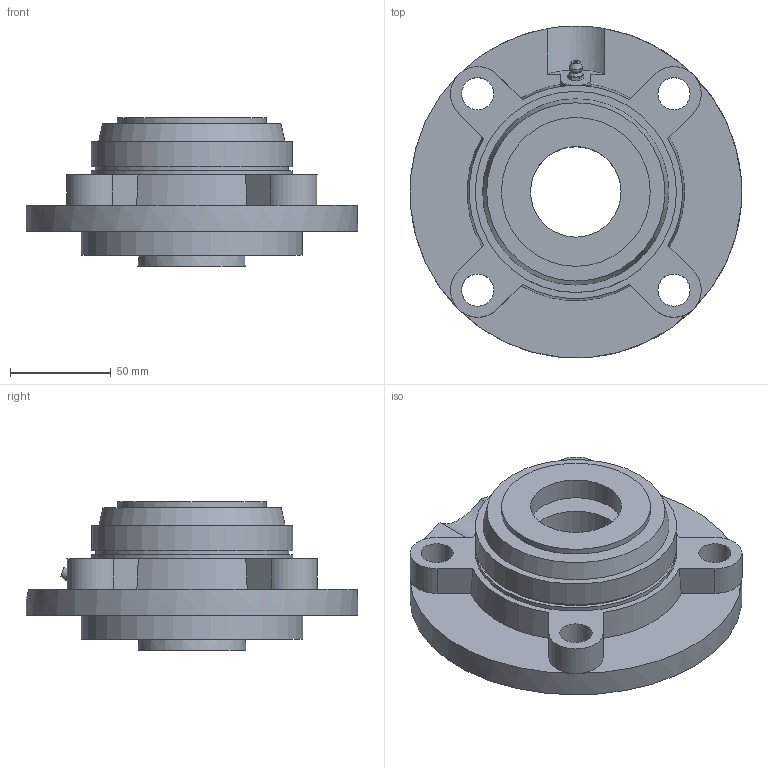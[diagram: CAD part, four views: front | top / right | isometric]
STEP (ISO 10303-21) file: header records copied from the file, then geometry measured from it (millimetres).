
FILE_DESCRIPTION((''),'2;1');
FILE_NAME('\\Ts-tgl068\j-cad-d-base\00.3DCADデータ作成フォルダ\02.フランジ形\UKFC200C(E)\UKFC210C+H.stp','2014-05-22T07:50:04',('btec_1106_2'),(''),'Autodesk Inventor 2012','Autodesk Inventor 2012','');
FILE_SCHEMA(('AUTOMOTIVE_DESIGN { 1 0 10303 214 1 1 1 1 }'));
Length unit declared in the file: millimetre
Products named in the file (5): UKFC200C+H; FC210C; UK210; GU1; 210CPA45
Assembly tree (4 placements, depth 2):
  UKFC200C+H
    FC210C
    UK210
    GU1
    210CPA45
Bounding box: 164.81 x 164.95 x 74 mm (x, y, z)
Volume: 467450.1 mm3; surface area: 134121.3 mm2
Topology: 4 solids, 4 shells, 204 faces, 517 edges, 337 vertices
Faces by surface type: plane 90, cylinder 55, cone 51, sphere 4, bspline 2, torus 2
Full cylindrical faces by diameter (mm): 5.359 x1, 6.35 x1, 16 x4, 45 x2, 63 x2, 74 x2, 94 x1, 96 x1, 98 x2, 100 x3, 110 x1, 165 x1
Entity records: 6080 total; most frequent: CARTESIAN_POINT 1381, ORIENTED_EDGE 948, DIRECTION 945, EDGE_CURVE 474, AXIS2_PLACEMENT_3D 394, VERTEX_POINT 324, EDGE_LOOP 269, FACE_OUTER_BOUND 204
